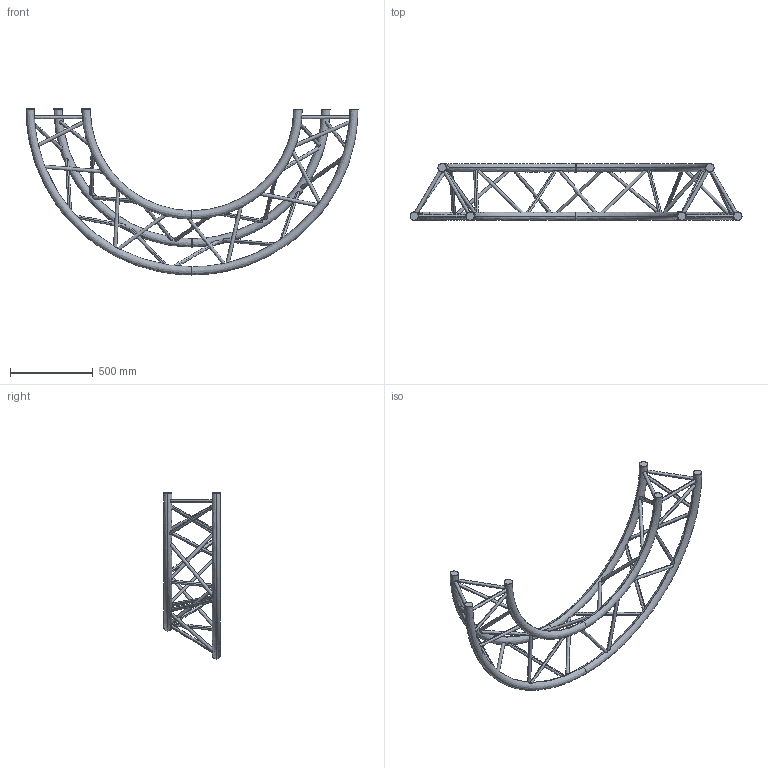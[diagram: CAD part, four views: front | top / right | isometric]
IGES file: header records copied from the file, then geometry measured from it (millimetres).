
Start section: SolidWorks IGES file using analytic representation for surfaces
Global section: file name: K:\BIBLIO\asd_biblio\SX390\Cercles\SXC39PH\SXC39200PH\SXC39200PH.IGS; native system: SolidWorks 2009; preprocessor: SolidWorks 2009; author: des3; date: 091021.132330; units: millimetre
Bounding box: 2000 x 341.85 x 1000 mm (x, y, z)
Surface area: 1896249.6 mm2 (no closed solid volume)
Topology: 0 solids, 0 shells, 84 faces, 5675 edges, 5675 vertices
Faces by surface type: revolution 66, bspline 18
